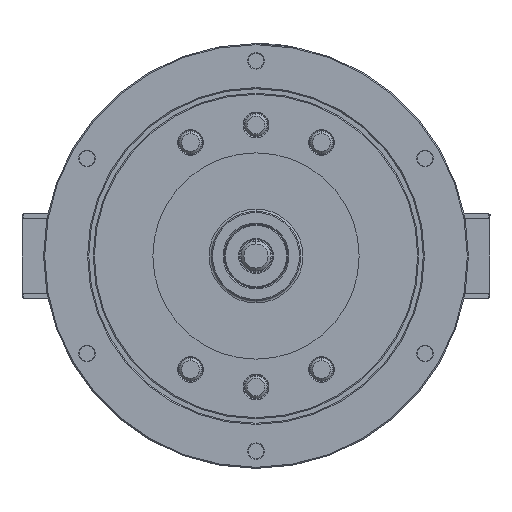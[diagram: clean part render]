
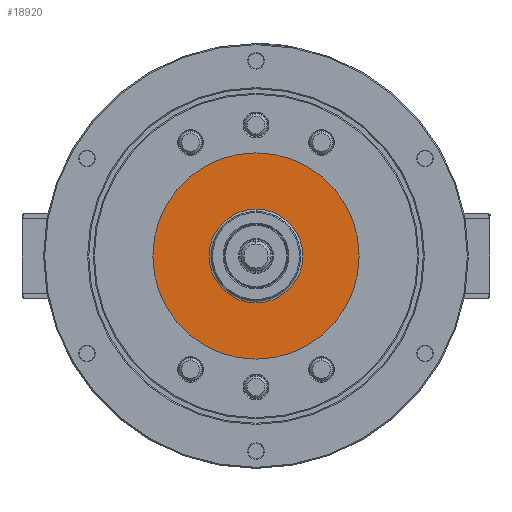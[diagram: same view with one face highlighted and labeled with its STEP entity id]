
A CAD part, left-side view. The second image highlights one B-rep face of the part: STEP entity #18920.
In plain terms, the highlighted planar face has unit normal (-1, 0, 0).
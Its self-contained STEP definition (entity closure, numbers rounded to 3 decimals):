
#515 = EDGE_CURVE ( 'NONE', #44521, #33267, #917, .T. ) ;
#917 = CIRCLE ( 'NONE', #12343, 92.5 ) ;
#1113 = EDGE_CURVE ( 'NONE', #18836, #11530, #13520, .T. ) ;
#4309 = PLANE ( 'NONE',  #9754 ) ;
#4521 = CARTESIAN_POINT ( 'NONE',  ( -111.5, -92.5, 0. ) ) ;
#7116 = CARTESIAN_POINT ( 'NONE',  ( -111.5, 92.5, 0. ) ) ;
#7450 = DIRECTION ( 'NONE',  ( 1., 0., 0. ) ) ;
#7804 = ORIENTED_EDGE ( 'NONE', *, *, #36561, .F. ) ;
#9754 = AXIS2_PLACEMENT_3D ( 'NONE', #4521, #36574, #39648 ) ;
#10801 = AXIS2_PLACEMENT_3D ( 'NONE', #28486, #38725, #39348 ) ;
#11530 = VERTEX_POINT ( 'NONE', #37342 ) ;
#11649 = ORIENTED_EDGE ( 'NONE', *, *, #1113, .F. ) ;
#12343 = AXIS2_PLACEMENT_3D ( 'NONE', #23282, #15969, #27336 ) ;
#13509 = CARTESIAN_POINT ( 'NONE',  ( -111.5, 0., 0. ) ) ;
#13520 = CIRCLE ( 'NONE', #10801, 42. ) ;
#14033 = FACE_OUTER_BOUND ( 'NONE', #18110, .T. ) ;
#15969 = DIRECTION ( 'NONE',  ( 1., 0., 0. ) ) ;
#17129 = DIRECTION ( 'NONE',  ( 0., 0., -1. ) ) ;
#17642 = FACE_BOUND ( 'NONE', #36264, .T. ) ;
#18110 = EDGE_LOOP ( 'NONE', ( #18522, #7804 ) ) ;
#18522 = ORIENTED_EDGE ( 'NONE', *, *, #515, .F. ) ;
#18836 = VERTEX_POINT ( 'NONE', #25506 ) ;
#18920 = ADVANCED_FACE ( 'NONE', ( #17642, #14033 ), #4309, .F. ) ;
#22837 = AXIS2_PLACEMENT_3D ( 'NONE', #29256, #7450, #32862 ) ;
#23282 = CARTESIAN_POINT ( 'NONE',  ( -111.5, 0., 0. ) ) ;
#25506 = CARTESIAN_POINT ( 'NONE',  ( -111.5, 0., -42. ) ) ;
#27336 = DIRECTION ( 'NONE',  ( 0., 1., 0. ) ) ;
#28486 = CARTESIAN_POINT ( 'NONE',  ( -111.5, 0., 0. ) ) ;
#29256 = CARTESIAN_POINT ( 'NONE',  ( -111.5, 0., 0. ) ) ;
#32862 = DIRECTION ( 'NONE',  ( 0., 1., 0. ) ) ;
#33267 = VERTEX_POINT ( 'NONE', #37297 ) ;
#35408 = ORIENTED_EDGE ( 'NONE', *, *, #39446, .F. ) ;
#36264 = EDGE_LOOP ( 'NONE', ( #11649, #35408 ) ) ;
#36561 = EDGE_CURVE ( 'NONE', #33267, #44521, #46884, .T. ) ;
#36574 = DIRECTION ( 'NONE',  ( 1., 0., 0. ) ) ;
#37297 = CARTESIAN_POINT ( 'NONE',  ( -111.5, -92.5, 0. ) ) ;
#37342 = CARTESIAN_POINT ( 'NONE',  ( -111.5, 0., 42. ) ) ;
#38725 = DIRECTION ( 'NONE',  ( -1., 0., 0. ) ) ;
#38806 = DIRECTION ( 'NONE',  ( -1., 0., 0. ) ) ;
#38935 = AXIS2_PLACEMENT_3D ( 'NONE', #13509, #38806, #17129 ) ;
#39348 = DIRECTION ( 'NONE',  ( 0., 0., -1. ) ) ;
#39446 = EDGE_CURVE ( 'NONE', #11530, #18836, #42173, .T. ) ;
#39648 = DIRECTION ( 'NONE',  ( 0., 1., 0. ) ) ;
#42173 = CIRCLE ( 'NONE', #38935, 42. ) ;
#44521 = VERTEX_POINT ( 'NONE', #7116 ) ;
#46884 = CIRCLE ( 'NONE', #22837, 92.5 ) ;
